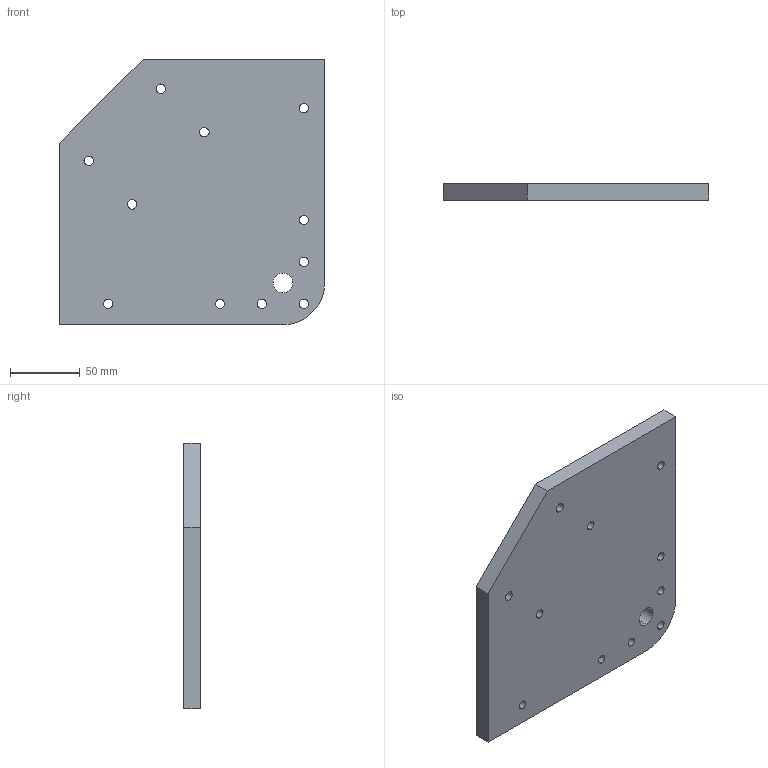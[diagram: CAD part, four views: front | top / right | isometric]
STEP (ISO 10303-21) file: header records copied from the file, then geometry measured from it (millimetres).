
FILE_DESCRIPTION (( 'STEP AP203' ), '1' );
FILE_NAME ('DFB06190R16.STEP', '2018-08-31T05:49:52', ( '' ), ( '' ), 'SwSTEP 2.0', 'SolidWorks 2012', '' );
FILE_SCHEMA (( 'CONFIG_CONTROL_DESIGN' ));
Length unit declared in the file: millimetre
Products named in the file (1): DFB06190R16
Bounding box: 190 x 12 x 190 mm (x, y, z)
Volume: 379610.7 mm3; surface area: 80363.3 mm2
Topology: 1 solids, 1 shells, 58 faces, 144 edges, 96 vertices
Faces by surface type: cylinder 39, plane 19
Entity records: 1891 total; most frequent: DIRECTION 340, CARTESIAN_POINT 299, ORIENTED_EDGE 288, EDGE_CURVE 144, AXIS2_PLACEMENT_3D 137, VERTEX_POINT 96, EDGE_LOOP 90, CIRCLE 78
